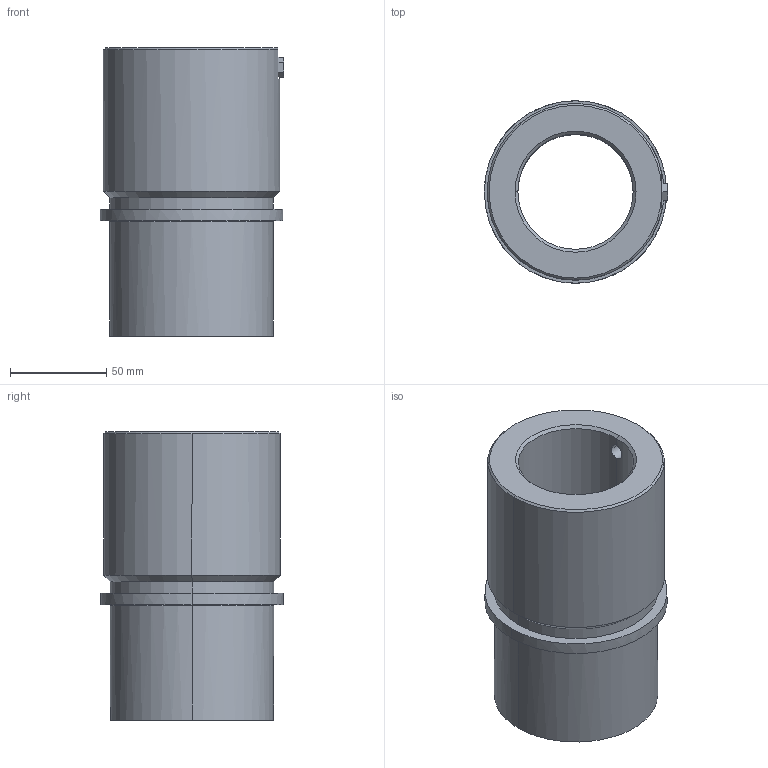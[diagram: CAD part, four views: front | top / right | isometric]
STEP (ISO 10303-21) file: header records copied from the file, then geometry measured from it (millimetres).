
FILE_DESCRIPTION(('CATIA V5 STEP Exchange'),'2;1');
FILE_NAME('C:\Users\Utente\Desktop\IO LAVORO\3D X SITO CF\X SITO\742\742-60.stp','2021-01-23T10:38:39+00:00',('none'),('none'),'CATIA Version 5 Release 20 GA (IN-10)','CATIA V5 STEP AP203','none');
FILE_SCHEMA(('CONFIG_CONTROL_DESIGN'));
Length unit declared in the file: millimetre
Products named in the file (1): 742-60
Assembly tree (1 placements, depth 2):
  742-60
    #58
Bounding box: 95.5 x 95 x 150 mm (x, y, z)
Volume: 508370.2 mm3; surface area: 80372.8 mm2
Topology: 1 solids, 1 shells, 38 faces, 89 edges, 56 vertices
Faces by surface type: plane 14, cylinder 12, cone 8, torus 4
Entity records: 1279 total; most frequent: CARTESIAN_POINT 371, ORIENTED_EDGE 178, DIRECTION 155, EDGE_CURVE 89, AXIS2_PLACEMENT_3D 74, VERTEX_POINT 56, EDGE_LOOP 43, VECTOR 41
